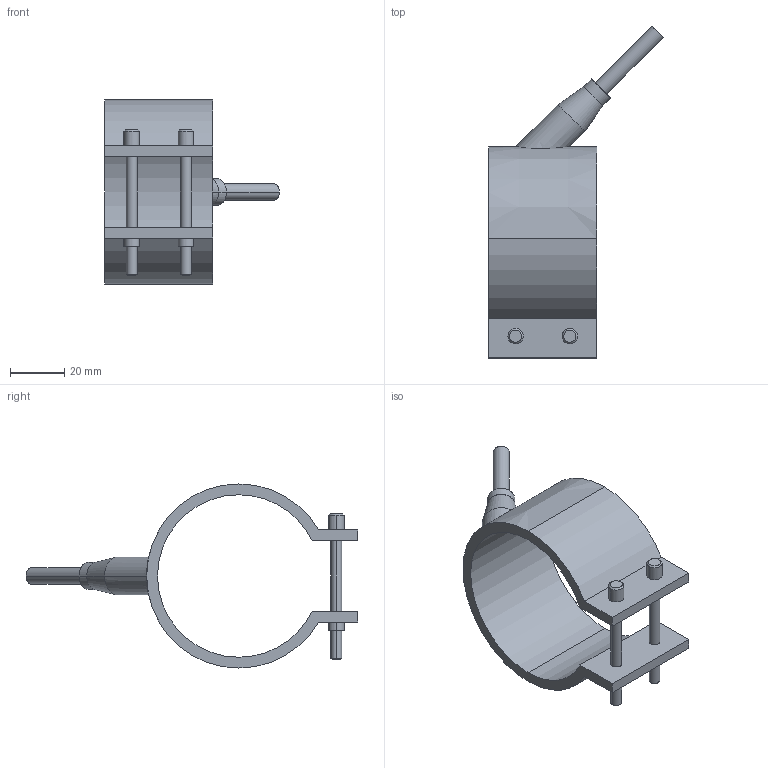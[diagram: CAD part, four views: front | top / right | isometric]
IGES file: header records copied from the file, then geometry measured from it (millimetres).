
Start section: START RECORD GO HERE.
Global section: file name: 29060040.igs; native system: DASSAULT SYSTEMES CATIA V5 R20 - www.3ds.com; preprocessor: CATIA Version 5 Release 20 ; author: Utente; organization: NB04-ASUS; date: 20210327.105343; units: millimetre
Bounding box: 64.55 x 122.55 x 68 mm (x, y, z)
Surface area: 20877.6 mm2 (no closed solid volume)
Topology: 0 solids, 0 shells, 54 faces, 252 edges, 252 vertices
Faces by surface type: revolution 38, plane 16
